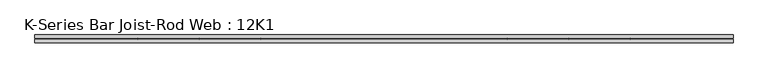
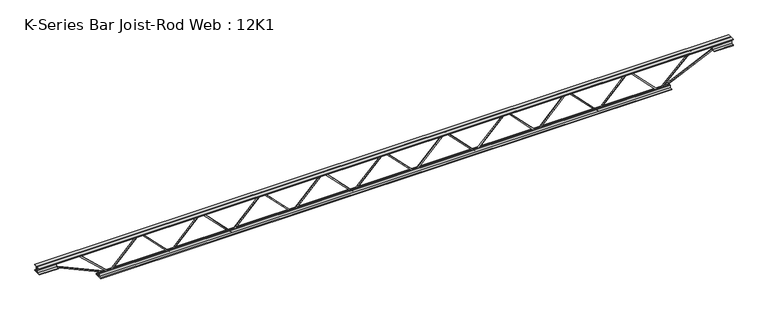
"""IFC4 building model written with IfcOpenShell, lengths in millimetres: beam geometry, K-Series Bar Joist-Rod Web : 12K1."""

from ifc_helpers import new_model, si_unit, frame, origin, place, context, project, spatial, polyline, outline, extrude, source, transform, mapped, element, save


def k_series_bar_joist_rod_web_12k1_dd27f140(model_context):
    return source(origin(), model_context, "Body", "SweptSolid", [
        extrude(outline(polyline([(-141.2875, 1453.913149), (-150.8125, 1453.913149), (-150.8125, 1459.0985061), (141.2875, 1743.437395), (141.2875, 1745.7666808), (-150.8125, 2030.1055697), (-150.8125, 2035.2909268), (-141.2875, 2035.2909268), (-141.2875, 2034.1262839), (150.8125, 1749.787395), (150.8125, 1739.4166808), (-141.2875, 1455.077792), (-141.2875, 1453.913149)])), frame((0.0, -4.7625, 0.0), z_axis=(0.0, 1.0, 0.0), x_axis=(0.0, 0.0, 1.0)), (0.0, 0.0, 1.0), 9.525),
        extrude(outline(polyline([(-141.2875, 872.3791364), (-150.8125, 872.3791364), (-150.8125, 877.5644935), (141.2875, 1161.9033824), (141.2875, 1164.2326682), (-150.8125, 1448.5715571), (-150.8125, 1453.7569142), (-141.2875, 1453.7569142), (-141.2875, 1452.5922713), (150.8125, 1168.2533824), (150.8125, 1157.8826682), (-141.2875, 873.5437793), (-141.2875, 872.3791364)])), frame((0.0, -4.7625, 0.0), z_axis=(0.0, 1.0, 0.0), x_axis=(0.0, 0.0, 1.0)), (0.0, 0.0, 1.0), 9.525),
        extrude(outline(polyline([(-141.2875, 290.8451238), (-150.8125, 290.8451238), (-150.8125, 296.0304808), (141.2875, 580.3693697), (141.2875, 582.6986556), (-150.8125, 867.0375444), (-150.8125, 872.2229015), (-141.2875, 872.2229015), (-141.2875, 871.0582586), (150.8125, 586.7193697), (150.8125, 576.3486556), (-141.2875, 292.0097667), (-141.2875, 290.8451238)])), frame((0.0, -4.7625, 0.0), z_axis=(0.0, 1.0, 0.0), x_axis=(0.0, 0.0, 1.0)), (0.0, 0.0, 1.0), 9.525),
        extrude(outline(polyline([(-141.2875, -290.6888889), (-150.8125, -290.6888889), (-150.8125, -285.5035318), (141.2875, -1.1646429), (141.2875, 1.1646429), (-150.8125, 285.5035318), (-150.8125, 290.6888889), (-141.2875, 290.6888889), (-141.2875, 289.524246), (150.8125, 5.1853571), (150.8125, -5.1853571), (-141.2875, -289.524246), (-141.2875, -290.6888889)])), frame((0.0, -4.7625, 0.0), z_axis=(0.0, 1.0, 0.0), x_axis=(0.0, 0.0, 1.0)), (0.0, 0.0, 1.0), 9.525),
        extrude(outline(polyline([(-141.2875, -872.2229015), (-150.8125, -872.2229015), (-150.8125, -867.0375444), (141.2875, -582.6986556), (141.2875, -580.3693697), (-150.8125, -296.0304808), (-150.8125, -290.8451238), (-141.2875, -290.8451238), (-141.2875, -292.0097667), (150.8125, -576.3486556), (150.8125, -586.7193697), (-141.2875, -871.0582586), (-141.2875, -872.2229015)])), frame((0.0, -4.7625, 0.0), z_axis=(0.0, 1.0, 0.0), x_axis=(0.0, 0.0, 1.0)), (0.0, 0.0, 1.0), 9.525),
        extrude(outline(polyline([(-141.2875, -1453.7569142), (-150.8125, -1453.7569142), (-150.8125, -1448.5715571), (141.2875, -1164.2326682), (141.2875, -1161.9033824), (-150.8125, -877.5644935), (-150.8125, -872.3791364), (-141.2875, -872.3791364), (-141.2875, -873.5437793), (150.8125, -1157.8826682), (150.8125, -1168.2533824), (-141.2875, -1452.5922713), (-141.2875, -1453.7569142)])), frame((0.0, -4.7625, 0.0), z_axis=(0.0, 1.0, 0.0), x_axis=(0.0, 0.0, 1.0)), (0.0, 0.0, 1.0), 9.525),
        extrude(outline(polyline([(-141.2875, -2035.2909268), (-150.8125, -2035.2909268), (-150.8125, -2030.1055697), (141.2875, -1745.7666808), (141.2875, -1743.437395), (-150.8125, -1459.0985061), (-150.8125, -1453.913149), (-141.2875, -1453.913149), (-141.2875, -1455.077792), (150.8125, -1739.4166808), (150.8125, -1749.787395), (-141.2875, -2034.1262839), (-141.2875, -2035.2909268)])), frame((0.0, -4.7625, 0.0), z_axis=(0.0, 1.0, 0.0), x_axis=(0.0, 0.0, 1.0)), (0.0, 0.0, 1.0), 9.525),
        extrude(outline(polyline([(-141.2875, 2035.4471617), (-150.8125, 2035.4471617), (-150.8125, 2040.6325188), (141.2875, 2324.9714077), (141.2875, 2327.3006935), (-150.8125, 2611.6395824), (-150.8125, 2616.8249395), (-141.2875, 2616.8249395), (-141.2875, 2615.6602965), (150.8125, 2331.3214077), (150.8125, 2320.9506935), (-141.2875, 2036.6118046), (-141.2875, 2035.4471617)])), frame((0.0, -4.7625, 0.0), z_axis=(0.0, 1.0, 0.0), x_axis=(0.0, 0.0, 1.0)), (0.0, 0.0, 1.0), 9.525),
        extrude(outline(polyline([(-141.2875, -2616.8249395), (-150.8125, -2616.8249395), (-150.8125, -2611.6395824), (141.2875, -2327.3006935), (141.2875, -2324.9714077), (-150.8125, -2040.6325188), (-150.8125, -2035.4471617), (-141.2875, -2035.4471617), (-141.2875, -2036.6118046), (150.8125, -2320.9506935), (150.8125, -2331.3214077), (-141.2875, -2615.6602965), (-141.2875, -2616.8249395)])), frame((0.0, -4.7625, 0.0), z_axis=(0.0, 1.0, 0.0), x_axis=(0.0, 0.0, 1.0)), (0.0, 0.0, 1.0), 9.525),
        extrude(outline(polyline([(4.7625, 152.4), (36.5125, 152.4), (36.5125, 146.05), (11.1125, 146.05), (11.1125, 120.65), (4.7625, 120.65), (4.7625, 152.4)])), frame((-3302.6249395, 0.0, 0.0), z_axis=(1.0, 0.0, 0.0), x_axis=(0.0, 1.0, 0.0)), (0.0, 0.0, 1.0), 6605.2498789),
        extrude(outline(polyline([(-4.7625, 152.4), (-4.7625, 120.65), (-11.1125, 120.65), (-11.1125, 146.05), (-36.5125, 146.05), (-36.5125, 152.4), (-4.7625, 152.4)])), frame((-3302.6249395, 0.0, 0.0), z_axis=(1.0, 0.0, 0.0), x_axis=(0.0, 1.0, 0.0)), (0.0, 0.0, 1.0), 6605.2498789),
        extrude(outline(polyline([(-4.7625, 88.9), (-36.5125, 88.9), (-36.5125, 95.25), (-11.1125, 95.25), (-11.1125, 120.65), (-4.7625, 120.65), (-4.7625, 88.9)])), frame((-3302.6249395, 0.0, 0.0), z_axis=(1.0, 0.0, 0.0), x_axis=(0.0, 1.0, 0.0)), (0.0, 0.0, 1.0), 177.8),
        extrude(outline(polyline([(36.5125, 88.9), (4.7625, 88.9), (4.7625, 120.65), (11.1125, 120.65), (11.1125, 95.25), (36.5125, 95.25), (36.5125, 88.9)])), frame((-3302.6249395, 0.0, 0.0), z_axis=(1.0, 0.0, 0.0), x_axis=(0.0, 1.0, 0.0)), (0.0, 0.0, 1.0), 177.8),
        extrude(outline(polyline([(4.7625, 88.9), (4.7625, 120.65), (11.1125, 120.65), (11.1125, 95.25), (36.5125, 95.25), (36.5125, 88.9), (4.7625, 88.9)])), frame((3124.8249395, 0.0, 0.0), z_axis=(1.0, 0.0, 0.0), x_axis=(0.0, 1.0, 0.0)), (0.0, 0.0, 1.0), 177.8),
        extrude(outline(polyline([(-4.7625, 88.9), (-36.5125, 88.9), (-36.5125, 95.25), (-11.1125, 95.25), (-11.1125, 120.65), (-4.7625, 120.65), (-4.7625, 88.9)])), frame((3124.8249395, 0.0, 0.0), z_axis=(1.0, 0.0, 0.0), x_axis=(0.0, 1.0, 0.0)), (0.0, 0.0, 1.0), 177.8),
        extrude(outline(polyline([(4.7625, -152.4), (4.7625, -120.65), (11.1125, -120.65), (11.1125, -146.05), (36.5125, -146.05), (36.5125, -152.4), (4.7625, -152.4)])), frame((-2718.4249395, 0.0, 0.0), z_axis=(1.0, 0.0, 0.0), x_axis=(0.0, 1.0, 0.0)), (0.0, 0.0, 1.0), 5436.8498789),
        extrude(outline(polyline([(-4.7625, -152.4), (-36.5125, -152.4), (-36.5125, -146.05), (-11.1125, -146.05), (-11.1125, -120.65), (-4.7625, -120.65), (-4.7625, -152.4)])), frame((-2718.4249395, 0.0, 0.0), z_axis=(1.0, 0.0, 0.0), x_axis=(0.0, 1.0, 0.0)), (0.0, 0.0, 1.0), 5436.8498789),
        extrude(outline(polyline([(125.4125, -3226.4249395), (115.8875, -3226.4249395), (115.8875, -3198.4379338), (-150.3777121, -2618.8129822), (-141.7222879, -2614.8368967), (125.4125, -3196.3548023), (125.4125, -3226.4249395)])), frame((0.0, -4.7625, 0.0), z_axis=(0.0, 1.0, 0.0), x_axis=(0.0, 0.0, 1.0)), (0.0, 0.0, 1.0), 9.525),
        extrude(outline(polyline([(138.1125, -2927.4709712), (128.5875, -2927.4709712), (128.5875, -2916.6546616), (-149.5239811, -2620.0826782), (-142.5760189, -2613.5672008), (138.1125, -2912.8872808), (138.1125, -2927.4709712)])), frame((0.0, -4.7625, 0.0), z_axis=(0.0, 1.0, 0.0), x_axis=(0.0, 0.0, 1.0)), (0.0, 0.0, 1.0), 9.525),
        extrude(outline(polyline([(0.0, -9.525), (0.0, 0.0), (635.3365675, 0.0), (635.3365675, -9.525), (0.0, -9.525)])), frame((2618.8241298, 4.7625, -150.3725738), z_axis=(-0.41977750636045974, 0.0, 0.9076270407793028), x_axis=(0.9076270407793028, 0.0, 0.41977750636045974)), (0.0, 0.0, 1.0), 9.525),
        extrude(outline(polyline([(0.0, -9.525), (0.0, 0.0), (422.4587409, 0.0), (422.4587409, -9.525), (0.0, -9.525)])), frame((2925.3210421, -4.7625, 142.609356), z_axis=(-0.691428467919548, 0.0, 0.7224449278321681), x_axis=(-0.7224449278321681, 0.0, -0.691428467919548)), (0.0, 0.0, 1.0), 9.525),
    ])


if __name__ == "__main__":
    model = new_model("IFC4")
    model_context = context("Model", 3, world=origin())
    ifc_project = project(units=[si_unit("LENGTHUNIT", "METRE", prefix="MILLI")], contexts=[model_context])
    site = spatial("IfcSite", under=ifc_project)
    building = spatial("IfcBuilding", under=site)
    placement = place(None, origin())
    k_series_bar_joist_rod_web_12k1_shape = k_series_bar_joist_rod_web_12k1_dd27f140(model_context)
    element("IfcBeam", 1, ObjectType="K-Series Bar Joist-Rod Web : 12K1", at=placement, inside=building, context=model_context, shape_type="MappedRepresentation", body=[
        mapped(k_series_bar_joist_rod_web_12k1_shape, transform((0.0, 0.0, 0.0), x_axis=(1.0, 0.0, 0.0), y_axis=(0.0, 1.0, 0.0), z_axis=(0.0, 0.0, 1.0))),
    ])
    save(model, "model.ifc")
